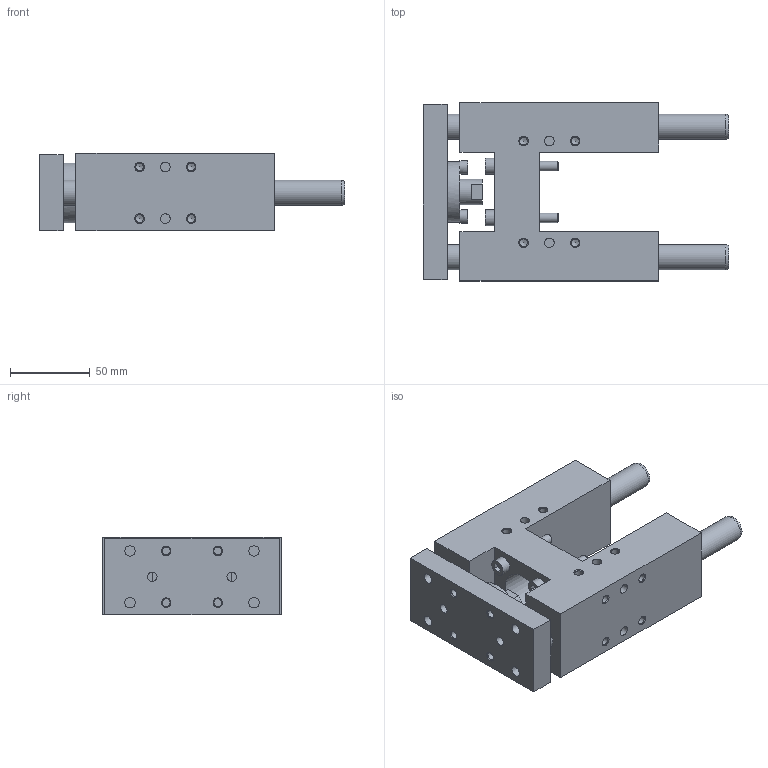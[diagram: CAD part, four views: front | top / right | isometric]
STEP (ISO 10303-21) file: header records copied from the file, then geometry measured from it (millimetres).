
FILE_DESCRIPTION( ( 'STEP AP214' ), '1' );
FILE_NAME( 'U:/Etudes/Top Solid/BIBLIO 3D AVM/TOP/PNEUMATIQUE/GUIDAGES/Type 32 (en H)/R_Renforcée/324R0_30.step', '2005-05-27T08:49:30', ( ' ' ), ( ' ' ), 'XStep 1.0', ' ', ' ' );
FILE_SCHEMA( ( 'automotive_design' ) );
Length unit declared in the file: metre
Products named in the file (2): 1; 2
Bounding box: 192 x 112 x 49 mm (x, y, z)
Volume: 528988.1 mm3; surface area: 114682.9 mm2
Topology: 2 solids, 5 shells, 269 faces, 602 edges, 401 vertices
Faces by surface type: plane 128, cylinder 96, cone 45
Full cylindrical faces by diameter (mm): 4.918 x32, 5 x4, 5.5 x2, 6 x16, 6.2 x12, 6.5 x4, 6.6 x4, 8.5 x2, 8.647 x2, 10 x4, 11 x4, 16 x5, 18 x1, 22.8 x1, 25 x1, 30 x1, 38 x1
Entity records: 8627 total; most frequent: CARTESIAN_POINT 1195, DIRECTION 1138, ORIENTED_EDGE 772, EDGE_LOOP 500, AXIS2_PLACEMENT_3D 487, EDGE_CURVE 386, FACE_OUTER_BOUND 365, VERTEX_POINT 340
